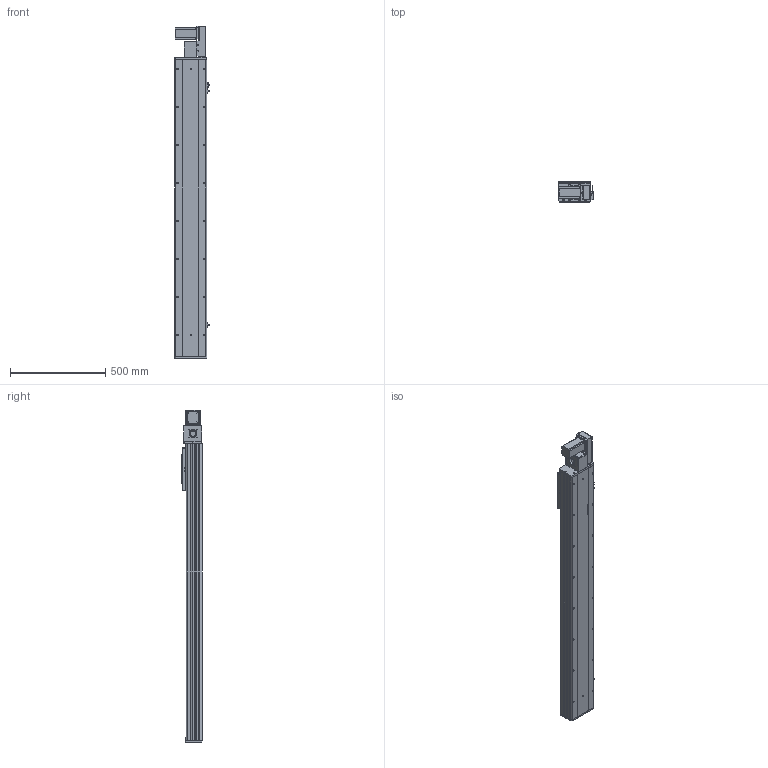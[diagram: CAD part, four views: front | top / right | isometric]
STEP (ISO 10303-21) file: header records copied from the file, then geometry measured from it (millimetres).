
FILE_DESCRIPTION (( 'STEP AP203' ), '1' );
FILE_NAME ('Y170CB-D105-S1250-BR-P400W.STEP', '2020-02-19T09:15:01', ( '微软用户' ), ( '微软中国' ), 'SwSTEP 2.0', 'SolidWorks 2017', '' );
FILE_SCHEMA (( 'CONFIG_CONTROL_DESIGN' ));
Length unit declared in the file: millimetre
Products named in the file (17): 70CB-掛极-; 70B喘謫眊----; san松下电机400不带刹车----; 0C--雄赽釱俋欶-170; --70CB --喘謫眊楊擘啣-; 17B-耜蚾蟀諉啣----; Y70俋欶BR----; 0B-萇儂楊擘啣; 70CB-耜裔啣-; Y170CB-D105-S1250-BR-P400W; B-源倛裔啣; 70C--詩湍揤踡え-; Y170CB-陔俋离換覜結え---; 70CB--耜裔; 70CB-詩湍--; Y100-135俋离換覜ん--; 70C-雄赽釱-奻-
Assembly tree (20 placements, depth 2):
  Y170CB-D105-S1250-BR-P400W
    70B喘謫眊----
    B-源倛裔啣
    17B-耜蚾蟀諉啣----
    0B-萇儂楊擘啣
    san松下电机400不带刹车----
    Y70俋欶BR----
    70CB-掛极-
    --70CB --喘謫眊楊擘啣-
    70CB-耜裔啣-  x2
    70C--詩湍揤踡え-  x2
    70CB--耜裔
    70C-雄赽釱-奻-
    0C--雄赽釱俋欶-170
    70CB-詩湍--
    Y100-135俋离換覜ん--  x3
    Y170CB-陔俋离換覜結え---
Bounding box: 183.5 x 107 x 1747 mm (x, y, z)
Volume: 7517056.8 mm3; surface area: 2691979.7 mm2
Topology: 20 solids, 20 shells, 1001 faces, 2681 edges, 1778 vertices
Faces by surface type: cylinder 515, plane 462, cone 24
Entity records: 31751 total; most frequent: CARTESIAN_POINT 5841, DIRECTION 5164, ORIENTED_EDGE 4844, EDGE_CURVE 2422, AXIS2_PLACEMENT_3D 1885, VERTEX_POINT 1608, LINE 1394, VECTOR 1394
